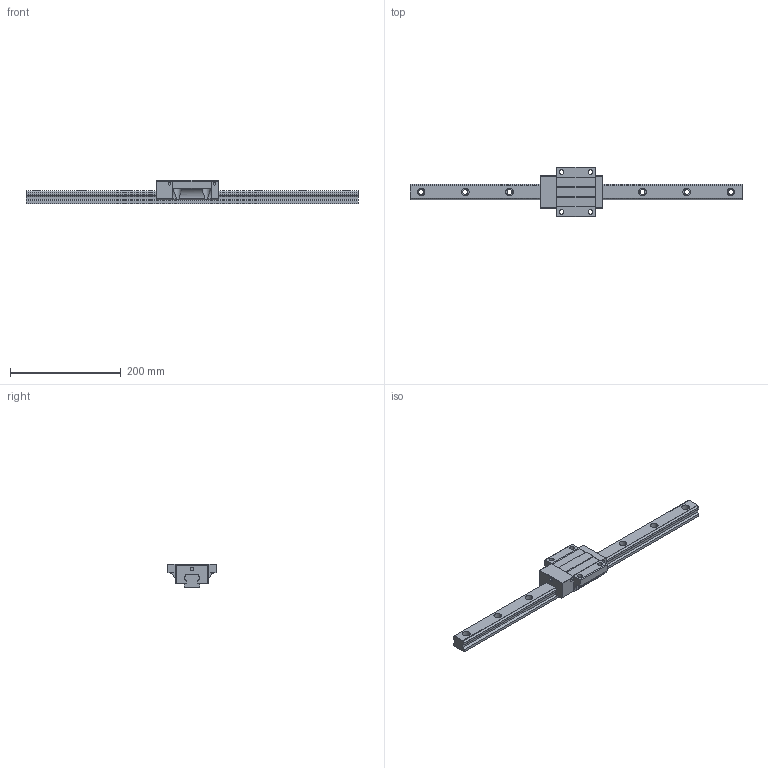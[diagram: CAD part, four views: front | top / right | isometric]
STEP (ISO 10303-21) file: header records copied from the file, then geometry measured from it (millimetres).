
FILE_DESCRIPTION (( 'STEP AP203' ), '1' );
FILE_NAME ('TRH30FN-BN.STEP', '2024-06-26T07:52:20', ( '' ), ( '' ), 'SwSTEP 2.0', 'SolidWorks 2022', '' );
FILE_SCHEMA (( 'CONFIG_CONTROL_DESIGN' ));
Length unit declared in the file: millimetre
Products named in the file (1): TRH30FN-BN
Bounding box: 600 x 90 x 42 mm (x, y, z)
Volume: 530096.3 mm3; surface area: 105489.1 mm2
Topology: 2 solids, 2 shells, 214 faces, 580 edges, 380 vertices
Faces by surface type: cylinder 116, plane 94, sphere 4
Entity records: 7507 total; most frequent: CARTESIAN_POINT 1871, DIRECTION 1184, ORIENTED_EDGE 1152, EDGE_CURVE 576, AXIS2_PLACEMENT_3D 421, VERTEX_POINT 380, VECTOR 342, LINE 342
